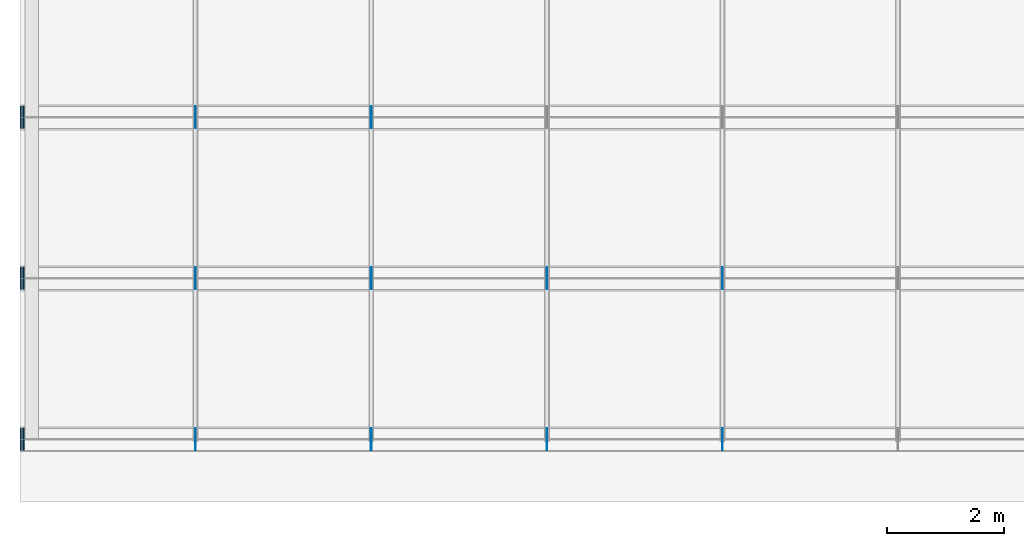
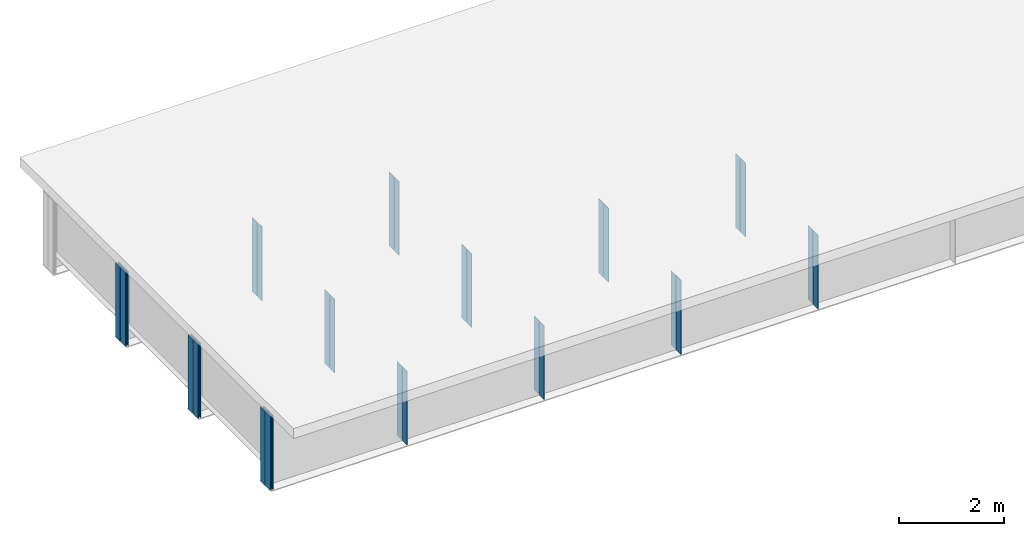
# One storey, part 2 of 11: 32 plates.
"""IFC4 building model written with IfcOpenShell, lengths in metres."""

from ifc_helpers import new_model, si_unit, frame, origin, origin_with_axes, origin_2d_with_axis, place, context, subcontext, project, spatial, rectangle, extrude, element, save


model = new_model("IFC4")

# Units and contexts
model_context = context("Model", 3, precision=1e-05, world=origin())
body_context = subcontext(model_context, "Body", "Model", "MODEL_VIEW")
ifc_project = project(units=[si_unit("LENGTHUNIT", "METRE"), si_unit("AREAUNIT", "SQUARE_METRE"), si_unit("VOLUMEUNIT", "CUBIC_METRE"), si_unit("PLANEANGLEUNIT", "RADIAN")], contexts=[model_context])

# Site, building, storey
site_placement = place(None, origin_with_axes())
site = spatial("IfcSite", under=ifc_project, at=site_placement, Name="Default Site")
building_placement = place(site_placement, origin_with_axes())
building = spatial("IfcBuilding", under=site, at=building_placement, Name="Bridge Structure")
storey_placement = place(building_placement, origin_with_axes())
storey = spatial("IfcBuildingStorey", under=building, at=storey_placement, Name="Superstructure")

# Plates
for number, where, z_axis, x_axis, name in (
    (1, (3.0, -4.02675, -0.855), (0.0, 0.0, 1.0), (1.0, 0.0, 0.0), "Intermediate Stiffener 1"),
    (2, (3.0, -4.22325, -0.855), (0.0, 0.0, 1.0), (1.0, 0.0, 0.0), "Intermediate Stiffener 1"),
    (3, (6.0, -4.02675, -0.855), (0.0, 0.0, 1.0), (1.0, 0.0, 0.0), "Intermediate Stiffener 1"),
    (4, (6.0, -4.22325, -0.855), (0.0, 0.0, 1.0), (1.0, 0.0, 0.0), "Intermediate Stiffener 1"),
    (5, (9.0, -4.02675, -0.855), (0.0, 0.0, 1.0), (1.0, 0.0, 0.0), "Intermediate Stiffener 1"),
    (6, (9.0, -4.22325, -0.855), (0.0, 0.0, 1.0), (1.0, 0.0, 0.0), "Intermediate Stiffener 1"),
    (7, (12.0, -4.02675, -0.855), (0.0, 0.0, 1.0), (1.0, 0.0, 0.0), "Intermediate Stiffener 1"),
    (8, (12.0, -4.22325, -0.855), (0.0, 0.0, 1.0), (1.0, 0.0, 0.0), "Intermediate Stiffener 1"),
):
    element("IfcPlate", number, at=place(storey_placement, frame(where, z_axis=z_axis, x_axis=x_axis)), inside=storey, Name=name, context=body_context, shape_type="SweptSolid", body=[
        extrude(rectangle(XDim=0.012, YDim=0.1785, at=origin_2d_with_axis()), origin_with_axes(), (0.0, 0.0, 1.0), 1.71),
    ])
for number, where, z_axis, x_axis, name in (
    (9, (0.01, -4.02675, -0.855), (0.0, 0.0, 1.0), (1.0, 0.0, 0.0), "End Stiffener 1"),
    (10, (0.01, -4.22325, -0.855), (0.0, 0.0, 1.0), (1.0, 0.0, 0.0), "End Stiffener 1"),
    (11, (0.06, -4.02675, -0.855), (0.0, 0.0, 1.0), (1.0, 0.0, 0.0), "End Stiffener 1"),
    (12, (0.06, -4.22325, -0.855), (0.0, 0.0, 1.0), (1.0, 0.0, 0.0), "End Stiffener 1"),
):
    element("IfcPlate", number, at=place(storey_placement, frame(where, z_axis=z_axis, x_axis=x_axis)), inside=storey, Name=name, context=body_context, shape_type="SweptSolid", body=[
        extrude(rectangle(XDim=0.02, YDim=0.1785, at=origin_2d_with_axis()), origin_with_axes(), (0.0, 0.0, 1.0), 1.71),
    ])
for number, where, z_axis, x_axis, name in (
    (13, (3.0, -1.27675, -0.855), (0.0, 0.0, 1.0), (1.0, 0.0, 0.0), "Intermediate Stiffener 2"),
    (14, (3.0, -1.47325, -0.855), (0.0, 0.0, 1.0), (1.0, 0.0, 0.0), "Intermediate Stiffener 2"),
    (15, (6.0, -1.27675, -0.855), (0.0, 0.0, 1.0), (1.0, 0.0, 0.0), "Intermediate Stiffener 2"),
    (16, (6.0, -1.47325, -0.855), (0.0, 0.0, 1.0), (1.0, 0.0, 0.0), "Intermediate Stiffener 2"),
    (17, (9.0, -1.27675, -0.855), (0.0, 0.0, 1.0), (1.0, 0.0, 0.0), "Intermediate Stiffener 2"),
    (18, (9.0, -1.47325, -0.855), (0.0, 0.0, 1.0), (1.0, 0.0, 0.0), "Intermediate Stiffener 2"),
    (19, (12.0, -1.27675, -0.855), (0.0, 0.0, 1.0), (1.0, 0.0, 0.0), "Intermediate Stiffener 2"),
    (20, (12.0, -1.47325, -0.855), (0.0, 0.0, 1.0), (1.0, 0.0, 0.0), "Intermediate Stiffener 2"),
):
    element("IfcPlate", number, at=place(storey_placement, frame(where, z_axis=z_axis, x_axis=x_axis)), inside=storey, Name=name, context=body_context, shape_type="SweptSolid", body=[
        extrude(rectangle(XDim=0.012, YDim=0.1785, at=origin_2d_with_axis()), origin_with_axes(), (0.0, 0.0, 1.0), 1.71),
    ])
for number, where, z_axis, x_axis, name in (
    (21, (0.01, -1.27675, -0.855), (0.0, 0.0, 1.0), (1.0, 0.0, 0.0), "End Stiffener 2"),
    (22, (0.01, -1.47325, -0.855), (0.0, 0.0, 1.0), (1.0, 0.0, 0.0), "End Stiffener 2"),
    (23, (0.06, -1.27675, -0.855), (0.0, 0.0, 1.0), (1.0, 0.0, 0.0), "End Stiffener 2"),
    (24, (0.06, -1.47325, -0.855), (0.0, 0.0, 1.0), (1.0, 0.0, 0.0), "End Stiffener 2"),
):
    element("IfcPlate", number, at=place(storey_placement, frame(where, z_axis=z_axis, x_axis=x_axis)), inside=storey, Name=name, context=body_context, shape_type="SweptSolid", body=[
        extrude(rectangle(XDim=0.02, YDim=0.1785, at=origin_2d_with_axis()), origin_with_axes(), (0.0, 0.0, 1.0), 1.71),
    ])
for number, where, z_axis, x_axis, name in (
    (25, (3.0, 1.47325, -0.855), (0.0, 0.0, 1.0), (1.0, 0.0, 0.0), "Intermediate Stiffener 3"),
    (26, (3.0, 1.27675, -0.855), (0.0, 0.0, 1.0), (1.0, 0.0, 0.0), "Intermediate Stiffener 3"),
    (27, (6.0, 1.47325, -0.855), (0.0, 0.0, 1.0), (1.0, 0.0, 0.0), "Intermediate Stiffener 3"),
    (28, (6.0, 1.27675, -0.855), (0.0, 0.0, 1.0), (1.0, 0.0, 0.0), "Intermediate Stiffener 3"),
):
    element("IfcPlate", number, at=place(storey_placement, frame(where, z_axis=z_axis, x_axis=x_axis)), inside=storey, Name=name, context=body_context, shape_type="SweptSolid", body=[
        extrude(rectangle(XDim=0.012, YDim=0.1785, at=origin_2d_with_axis()), origin_with_axes(), (0.0, 0.0, 1.0), 1.71),
    ])
for number, where, z_axis, x_axis, name in (
    (29, (0.01, 1.47325, -0.855), (0.0, 0.0, 1.0), (1.0, 0.0, 0.0), "End Stiffener 3"),
    (30, (0.01, 1.27675, -0.855), (0.0, 0.0, 1.0), (1.0, 0.0, 0.0), "End Stiffener 3"),
    (31, (0.06, 1.47325, -0.855), (0.0, 0.0, 1.0), (1.0, 0.0, 0.0), "End Stiffener 3"),
    (32, (0.06, 1.27675, -0.855), (0.0, 0.0, 1.0), (1.0, 0.0, 0.0), "End Stiffener 3"),
):
    element("IfcPlate", number, at=place(storey_placement, frame(where, z_axis=z_axis, x_axis=x_axis)), inside=storey, Name=name, context=body_context, shape_type="SweptSolid", body=[
        extrude(rectangle(XDim=0.02, YDim=0.1785, at=origin_2d_with_axis()), origin_with_axes(), (0.0, 0.0, 1.0), 1.71),
    ])

save(model, "model.ifc")
